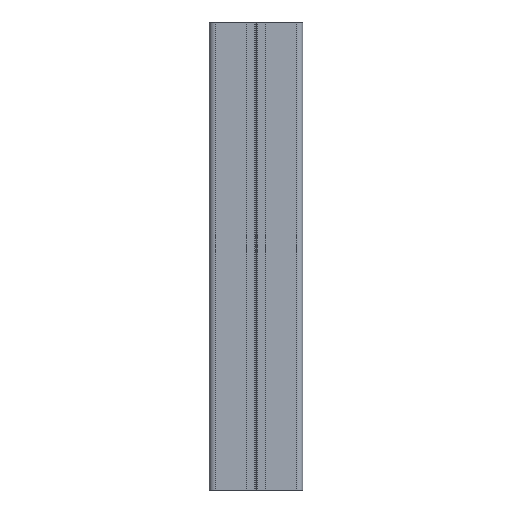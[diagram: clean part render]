
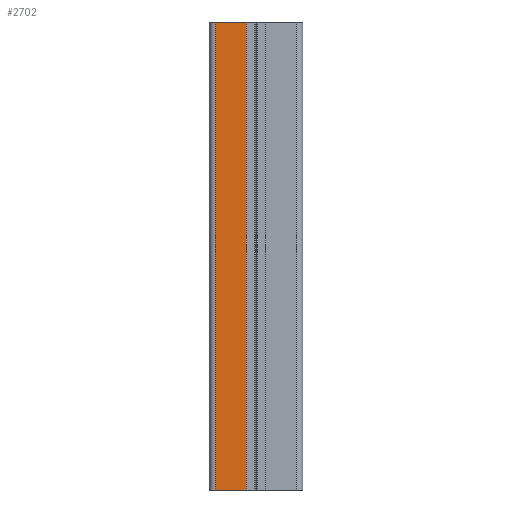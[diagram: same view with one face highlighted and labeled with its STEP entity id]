
A CAD part, left-side view. The second image highlights one B-rep face of the part: STEP entity #2702.
In plain terms, the highlighted planar face has unit normal (-1, 0.001, 0).
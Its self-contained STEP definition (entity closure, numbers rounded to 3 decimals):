
#102 = CARTESIAN_POINT ( 'NONE',  ( -20., 17.501, 200. ) ) ;
#154 = DIRECTION ( 'NONE',  ( 0., -1., 0. ) ) ;
#391 = DIRECTION ( 'NONE',  ( 0., 1., 0. ) ) ;
#398 = DIRECTION ( 'NONE',  ( 1., 0., 0. ) ) ;
#402 = CARTESIAN_POINT ( 'NONE',  ( -20., 17.501, 200. ) ) ;
#448 = CARTESIAN_POINT ( 'NONE',  ( -20., 17.501, 0. ) ) ;
#496 = DIRECTION ( 'NONE',  ( 0., -1., 0. ) ) ;
#655 = PLANE ( 'NONE',  #1599 ) ;
#672 = LINE ( 'NONE', #448, #700 ) ;
#700 = VECTOR ( 'NONE', #496, 1000. ) ;
#769 = CARTESIAN_POINT ( 'NONE',  ( -20., 17.501, 200. ) ) ;
#777 = VERTEX_POINT ( 'NONE', #2823 ) ;
#796 = VERTEX_POINT ( 'NONE', #2865 ) ;
#1076 = EDGE_CURVE ( 'NONE', #2848, #1551, #2777, .T. ) ;
#1303 = FACE_OUTER_BOUND ( 'NONE', #1558, .T. ) ;
#1394 = EDGE_CURVE ( 'NONE', #1551, #777, #3180, .T. ) ;
#1436 = EDGE_CURVE ( 'NONE', #2848, #796, #2573, .T. ) ;
#1551 = VERTEX_POINT ( 'NONE', #2261 ) ;
#1558 = EDGE_LOOP ( 'NONE', ( #2142, #2164, #2168, #2181 ) ) ;
#1599 = AXIS2_PLACEMENT_3D ( 'NONE', #402, #398, #391 ) ;
#2142 = ORIENTED_EDGE ( 'NONE', *, *, #3007, .T. ) ;
#2164 = ORIENTED_EDGE ( 'NONE', *, *, #1394, .F. ) ;
#2168 = ORIENTED_EDGE ( 'NONE', *, *, #1076, .F. ) ;
#2181 = ORIENTED_EDGE ( 'NONE', *, *, #1436, .T. ) ;
#2261 = CARTESIAN_POINT ( 'NONE',  ( -20.006, 4.1, 200. ) ) ;
#2568 = VECTOR ( 'NONE', #2866, 1000. ) ;
#2573 = LINE ( 'NONE', #2987, #2568 ) ;
#2633 = VECTOR ( 'NONE', #3157, 1000. ) ;
#2702 = ADVANCED_FACE ( 'NONE', ( #1303 ), #655, .F. ) ;
#2756 = VECTOR ( 'NONE', #154, 1000. ) ;
#2777 = LINE ( 'NONE', #102, #2756 ) ;
#2823 = CARTESIAN_POINT ( 'NONE',  ( -20.006, 4.1, 0. ) ) ;
#2848 = VERTEX_POINT ( 'NONE', #769 ) ;
#2865 = CARTESIAN_POINT ( 'NONE',  ( -20., 17.501, 0. ) ) ;
#2866 = DIRECTION ( 'NONE',  ( 0., 0., -1. ) ) ;
#2987 = CARTESIAN_POINT ( 'NONE',  ( -20., 17.501, 200. ) ) ;
#3007 = EDGE_CURVE ( 'NONE', #796, #777, #672, .T. ) ;
#3140 = CARTESIAN_POINT ( 'NONE',  ( -20.006, 4.1, 200. ) ) ;
#3157 = DIRECTION ( 'NONE',  ( 0., 0., -1. ) ) ;
#3180 = LINE ( 'NONE', #3140, #2633 ) ;
